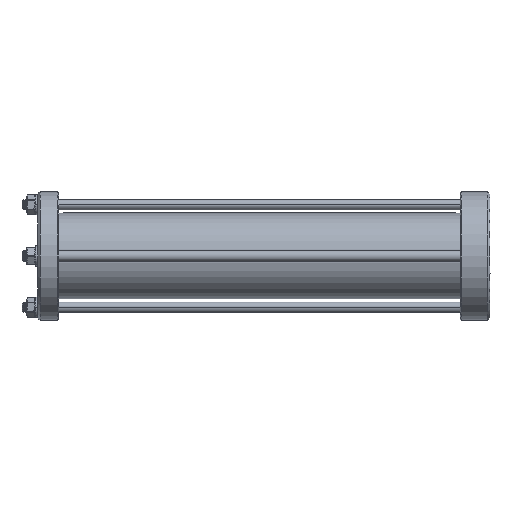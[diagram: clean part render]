
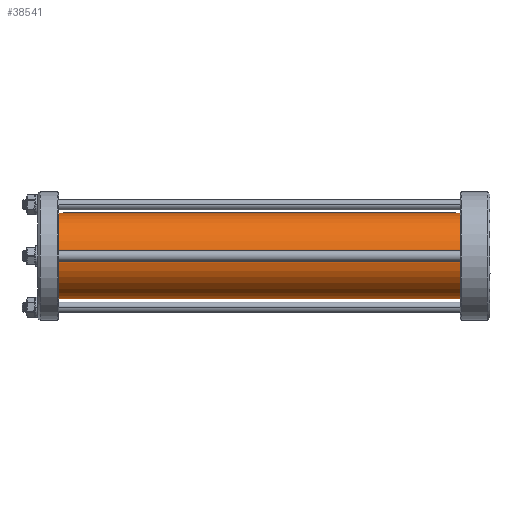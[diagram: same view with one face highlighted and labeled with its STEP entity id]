
A CAD part, left-side view. The second image highlights one B-rep face of the part: STEP entity #38541.
In plain terms, the highlighted cylindrical face has radius 24.5 mm (diameter 49 mm), a partial arc.
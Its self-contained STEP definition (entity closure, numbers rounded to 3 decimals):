
#2358 = DIRECTION ( 'NONE',  ( 0., -1., 0. ) ) ;
#2475 = ORIENTED_EDGE ( 'NONE', *, *, #34442, .F. ) ;
#3725 = DIRECTION ( 'NONE',  ( 0., 1., 0. ) ) ;
#3799 = LINE ( 'NONE', #35978, #13277 ) ;
#5898 = CARTESIAN_POINT ( 'NONE',  ( 40.045, 262.458, 126.117 ) ) ;
#11678 = CYLINDRICAL_SURFACE ( 'NONE', #61951, 24.5 ) ;
#13277 = VECTOR ( 'NONE', #59666, 1000. ) ;
#14125 = CARTESIAN_POINT ( 'NONE',  ( 40.045, 23.458, 77.117 ) ) ;
#15895 = DIRECTION ( 'NONE',  ( 0., 0., -1. ) ) ;
#17025 = ORIENTED_EDGE ( 'NONE', *, *, #25229, .T. ) ;
#18468 = AXIS2_PLACEMENT_3D ( 'NONE', #38833, #3725, #57669 ) ;
#20493 = CARTESIAN_POINT ( 'NONE',  ( 40.045, 23.458, 126.117 ) ) ;
#21302 = EDGE_CURVE ( 'NONE', #56291, #28857, #35074, .T. ) ;
#22187 = CARTESIAN_POINT ( 'NONE',  ( 40.045, 262.458, 101.617 ) ) ;
#25229 = EDGE_CURVE ( 'NONE', #51348, #56291, #35596, .T. ) ;
#27101 = CARTESIAN_POINT ( 'NONE',  ( 40.045, 262.458, 77.117 ) ) ;
#28857 = VERTEX_POINT ( 'NONE', #20493 ) ;
#29048 = VERTEX_POINT ( 'NONE', #5898 ) ;
#29896 = ORIENTED_EDGE ( 'NONE', *, *, #34748, .F. ) ;
#31236 = AXIS2_PLACEMENT_3D ( 'NONE', #22187, #60526, #60842 ) ;
#32256 = CIRCLE ( 'NONE', #31236, 24.5 ) ;
#34442 = EDGE_CURVE ( 'NONE', #51348, #29048, #32256, .T. ) ;
#34748 = EDGE_CURVE ( 'NONE', #29048, #28857, #3799, .T. ) ;
#35074 = CIRCLE ( 'NONE', #18468, 24.5 ) ;
#35550 = ORIENTED_EDGE ( 'NONE', *, *, #21302, .T. ) ;
#35596 = LINE ( 'NONE', #27101, #56140 ) ;
#35978 = CARTESIAN_POINT ( 'NONE',  ( 40.045, 262.458, 126.117 ) ) ;
#38541 = ADVANCED_FACE ( 'NONE', ( #45429 ), #11678, .T. ) ;
#38833 = CARTESIAN_POINT ( 'NONE',  ( 40.045, 23.458, 101.617 ) ) ;
#45429 = FACE_OUTER_BOUND ( 'NONE', #55414, .T. ) ;
#49976 = DIRECTION ( 'NONE',  ( 0., -1., 0. ) ) ;
#51348 = VERTEX_POINT ( 'NONE', #62239 ) ;
#55414 = EDGE_LOOP ( 'NONE', ( #29896, #2475, #17025, #35550 ) ) ;
#56140 = VECTOR ( 'NONE', #2358, 1000. ) ;
#56291 = VERTEX_POINT ( 'NONE', #14125 ) ;
#57669 = DIRECTION ( 'NONE',  ( 0., 0., 1. ) ) ;
#59666 = DIRECTION ( 'NONE',  ( 0., -1., 0. ) ) ;
#60374 = CARTESIAN_POINT ( 'NONE',  ( 40.045, 262.458, 101.617 ) ) ;
#60526 = DIRECTION ( 'NONE',  ( 0., 1., 0. ) ) ;
#60842 = DIRECTION ( 'NONE',  ( 0., 0., 1. ) ) ;
#61951 = AXIS2_PLACEMENT_3D ( 'NONE', #60374, #49976, #15895 ) ;
#62239 = CARTESIAN_POINT ( 'NONE',  ( 40.045, 262.458, 77.117 ) ) ;
